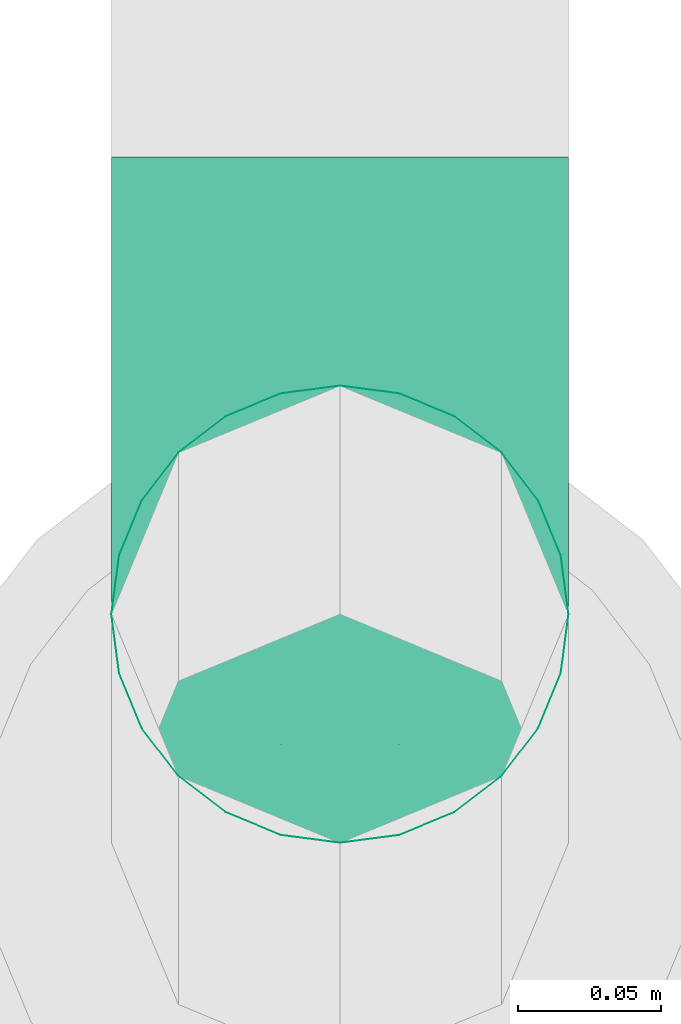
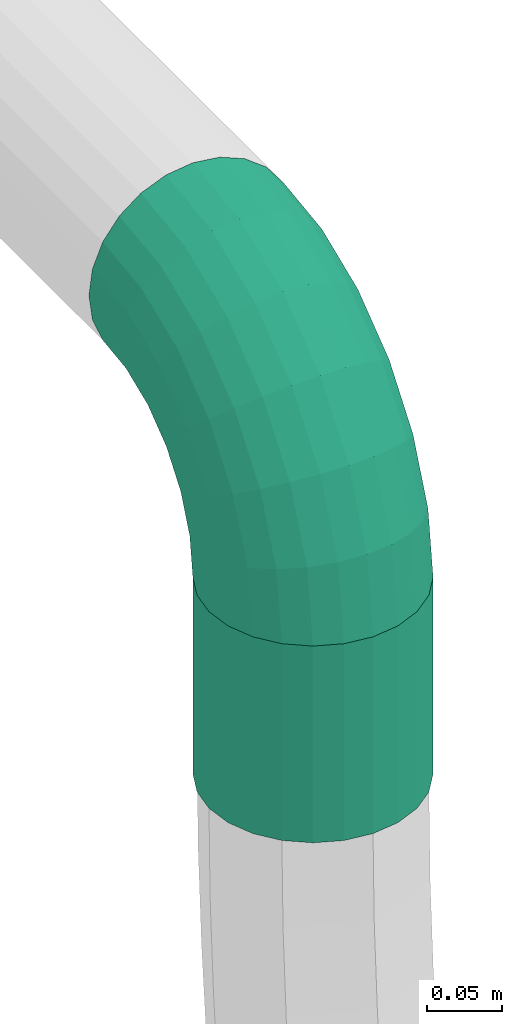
# One storey, part 65 of 374: 1 flow fitting, 1 flow segment.
"""IFC2X3 building model written with IfcOpenShell, lengths in metres."""

from ifc_helpers import new_model, si_unit, direction, origin, place, context, subcontext, project, spatial, open_shell, surface_model, source, transform, mapped, element, save


model = new_model("IFC2X3")

# Units and contexts
model_context = context("Model", 3, precision=1e-05, world=origin(), true_north=direction((-0.4480736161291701, 0.8939966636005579)))
body_context = subcontext(model_context, "Body", "Model", "MODEL_VIEW")
ifc_project = project(units=[si_unit("LENGTHUNIT", "METRE"), si_unit("AREAUNIT", "SQUARE_METRE"), si_unit("VOLUMEUNIT", "CUBIC_METRE"), si_unit("PLANEANGLEUNIT", "RADIAN"), si_unit("THERMODYNAMICTEMPERATUREUNIT", "KELVIN"), si_unit("MASSUNIT", "GRAM", prefix="KILO"), si_unit("TIMEUNIT", "SECOND")], contexts=[model_context])

# Site, building, storey
site_placement = place(None, origin())
site = spatial("IfcSite", under=ifc_project, at=site_placement, Name="Site 1", CompositionType="ELEMENT")
building_placement = place(site_placement, origin())
building = spatial("IfcBuilding", under=site, at=building_placement, Name="Undefined", CompositionType="ELEMENT")
storey_placement = place(building_placement, origin())
storey = spatial("IfcBuildingStorey", under=building, at=storey_placement, Name="Rez de chauss\x8ee", CompositionType="ELEMENT", Elevation=0.0)

# Flow fitting
shared_shape_1 = source(origin(), body_context, "Body", "SurfaceModel", [
    surface_model("IfcFaceBasedSurfaceModel", [(0.06265257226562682, -8.8817842e-16, 0.0), (0.062296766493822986, 0.02088115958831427, -7.105427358e-15), (0.0003558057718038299, 0.020881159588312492, 7.105427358e-15), (0.0, 0.0, 0.0), (-0.059474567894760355, 0.022956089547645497, -0.015896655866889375), (-0.06051773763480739, 0.002098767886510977, -0.01607928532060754), (-0.11311701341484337, 0.02696454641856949, -0.04660663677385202), (-0.11477645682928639, 0.006153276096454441, -0.04714207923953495), (-0.15691588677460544, 0.0326333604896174, -0.09003710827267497), (-0.15907851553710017, 0.01188721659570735, -0.09107150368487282), (-0.18788636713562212, 0.03957621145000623, -0.14322835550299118), (-0.1904048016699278, 0.01890983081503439, -0.14487384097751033), (-0.2039178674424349, 0.04731995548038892, -0.20255548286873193), (-0.20662048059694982, 0.026742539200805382, -0.20488255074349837), (0.061253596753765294, 0.04103889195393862, -0.0053597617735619), (0.0013989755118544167, 0.04103889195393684, -0.005359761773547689), (-0.05641614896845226, 0.04304393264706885, -0.02072097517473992), (-0.10825177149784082, 0.04691737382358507, -0.050396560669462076), (-0.15057538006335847, 0.05239524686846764, -0.09236417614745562), (-0.18050269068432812, 0.05910424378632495, -0.14376379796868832), (-0.19599420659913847, 0.06658715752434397, -0.20109262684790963), (0.05959415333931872, 0.05909948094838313, -0.01571402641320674), (0.003058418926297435, 0.05909948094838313, -0.01571402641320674), (-0.05155090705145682, 0.06099334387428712, -0.030223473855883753), (-0.10051228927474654, 0.06465200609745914, -0.058253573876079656), (-0.1404890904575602, 0.0698261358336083, -0.09789412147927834), (-0.16875695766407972, 0.0761631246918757, -0.14644367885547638), (-0.18338948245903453, 0.08323111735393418, -0.2005936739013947), (0.057431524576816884, 0.07383212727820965, -0.030357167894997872), (0.005221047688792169, 0.07383212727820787, -0.03035716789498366), (-0.0452104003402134, 0.07558110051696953, -0.04375657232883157), (-0.09042599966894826, 0.07895985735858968, -0.06964223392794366), (-0.12734438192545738, 0.08373814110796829, -0.10625008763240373), (-0.15344962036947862, 0.08959031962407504, -0.15108536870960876), (-0.16696268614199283, 0.0961175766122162, -0.20109262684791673), (0.054913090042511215, 0.0842328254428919, -0.048291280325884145), (0.007739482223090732, 0.08423282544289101, -0.04829128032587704), (-0.037826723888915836, 0.08581307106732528, -0.06039801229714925), (-0.07868026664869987, 0.08886587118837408, -0.08378642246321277), (-0.11203704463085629, 0.09318318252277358, -0.11686262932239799), (-0.13562384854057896, 0.09847078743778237, -0.1573725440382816), (-0.14783327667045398, 0.10436834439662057, -0.20255548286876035), (0.05221047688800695, 0.0895927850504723, -0.06829418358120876), (0.010442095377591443, 0.08959278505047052, -0.06829418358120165), (-0.029903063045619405, 0.09099196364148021, -0.07901370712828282), (-0.06607554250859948, 0.09369496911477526, -0.0997222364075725), (-0.0956102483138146, 0.0975175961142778, -0.12900851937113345), (-0.11649443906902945, 0.10219933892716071, -0.16487674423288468), (-0.12730489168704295, 0.1074211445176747, -0.2048825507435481), (0.04950786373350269, 0.08954673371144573, -0.08900271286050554), (0.013144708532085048, 0.08954673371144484, -0.08900271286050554), (-0.02197940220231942, 0.09076484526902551, -0.09833502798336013), (-0.05347081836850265, 0.09311805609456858, -0.11636367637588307), (-0.0791834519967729, 0.09644599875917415, -0.14186003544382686), (-0.09736502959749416, 0.10052187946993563, -0.17308657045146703), (-0.10677650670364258, 0.1050679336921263, -0.20791524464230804), (0.04698942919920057, 0.08409780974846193, -0.10900561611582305), (0.015663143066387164, 0.08409780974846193, -0.10900561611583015), (-0.014595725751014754, 0.08514719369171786, -0.11704525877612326), (-0.0417250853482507, 0.0871744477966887, -0.13257665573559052), (-0.06387611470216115, 0.09004141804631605, -0.15454136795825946), (-0.07953925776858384, 0.09355272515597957, -0.1814425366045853), (-0.08764709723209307, 0.09746907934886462, -0.21144689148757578), (0.04482680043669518, 0.0736173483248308, -0.12693972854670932), (0.017825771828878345, 0.0736173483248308, -0.12693972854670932), (-0.008255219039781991, 0.07452184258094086, -0.13386932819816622), (-0.03163879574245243, 0.0762691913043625, -0.14725628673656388), (-0.050731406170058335, 0.07874031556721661, -0.1661883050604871), (-0.06423192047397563, 0.08176681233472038, -0.18937519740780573), (-0.07122030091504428, 0.08514243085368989, -0.21523681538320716), (0.04316735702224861, 0.058819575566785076, -0.14158287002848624), (0.019485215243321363, 0.058819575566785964, -0.14158287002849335), (-0.0033899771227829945, 0.05961289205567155, -0.14766070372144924), (-0.02389931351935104, 0.06114546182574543, -0.15940217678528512), (-0.04064511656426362, 0.06331284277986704, -0.17600712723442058), (-0.052486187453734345, 0.06596733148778, -0.19634395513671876), (-0.05861557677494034, 0.06892802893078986, -0.2190267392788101), (0.04212418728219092, 0.040712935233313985, -0.15193713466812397), (0.020528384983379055, 0.040712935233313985, -0.15193713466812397), (-0.0003315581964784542, 0.041436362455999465, -0.15747952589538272), (-0.019034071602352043, 0.04283391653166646, -0.16818660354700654), (-0.03430460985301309, 0.04481035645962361, -0.1833286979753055), (-0.04510251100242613, 0.047230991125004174, -0.20187390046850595), (-0.05069191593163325, 0.04993085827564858, -0.22255838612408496), (0.04176838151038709, 0.02053136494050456, -0.15729689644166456), (0.020884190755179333, 0.02053136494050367, -0.15729689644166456), (0.0007116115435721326, 0.021230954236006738, -0.16265665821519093), (-0.017374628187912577, 0.022582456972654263, -0.17301092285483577), (-0.03214198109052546, 0.024493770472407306, -0.1876540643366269), (-0.042584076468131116, 0.026834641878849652, -0.20558817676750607), (-0.04798930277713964, 0.02944554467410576, -0.22559108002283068), (0.04212418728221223, -0.000349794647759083, -0.15729689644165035), (0.020528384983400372, -0.000349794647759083, -0.15729689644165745), (-0.0003315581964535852, 0.00037363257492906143, -0.1628392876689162), (-0.019034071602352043, 0.0017711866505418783, -0.17354636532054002), (-0.03430460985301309, 0.0037476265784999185, -0.18868845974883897), (-0.04510251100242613, 0.00616826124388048, -0.20723366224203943), (-0.05069191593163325, 0.008868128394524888, -0.22791814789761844), (0.04316735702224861, -0.020507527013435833, -0.15193713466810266), (0.019485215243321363, -0.020507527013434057, -0.15193713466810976), (-0.0033899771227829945, -0.019714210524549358, -0.15801496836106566), (-0.02389931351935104, -0.01818164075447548, -0.16975644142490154), (-0.04064511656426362, -0.01601425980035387, -0.186361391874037), (-0.052486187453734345, -0.013359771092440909, -0.20669821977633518), (-0.05861557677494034, -0.010399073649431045, -0.22938100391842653), (0.04482680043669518, -0.03856811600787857, -0.1415828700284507), (0.017825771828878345, -0.03856811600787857, -0.1415828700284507), (-0.008255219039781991, -0.03766362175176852, -0.1485124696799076), (-0.03163879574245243, -0.03591627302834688, -0.16189942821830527), (-0.050731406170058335, -0.03344514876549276, -0.1808314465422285), (-0.06423192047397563, -0.030418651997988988, -0.20401833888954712), (-0.07122030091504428, -0.027043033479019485, -0.22987995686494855), (0.04698942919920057, -0.05330076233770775, -0.12693972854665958), (0.015663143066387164, -0.05330076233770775, -0.12693972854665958), (-0.014595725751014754, -0.05225137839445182, -0.1349793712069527), (-0.0417250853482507, -0.05022412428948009, -0.15051076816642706), (-0.06387611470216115, -0.047357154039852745, -0.172475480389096), (-0.07953925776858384, -0.043845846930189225, -0.19937664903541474), (-0.08764709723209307, -0.03992949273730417, -0.2293810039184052), (0.04950786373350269, -0.06370146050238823, -0.10900561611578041), (0.013144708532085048, -0.06370146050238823, -0.10900561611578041), (-0.02197940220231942, -0.06248334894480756, -0.11833793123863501), (-0.05347081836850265, -0.06013013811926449, -0.13636657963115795), (-0.0791834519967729, -0.05680219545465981, -0.16186293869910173), (-0.09736502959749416, -0.05272631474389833, -0.1930894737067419), (-0.10677650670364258, -0.04818026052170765, -0.2279181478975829), (0.05221047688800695, -0.06906142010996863, -0.08900271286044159), (0.010442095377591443, -0.06906142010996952, -0.08900271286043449), (-0.029903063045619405, -0.06766224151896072, -0.09972223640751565), (-0.06607554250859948, -0.06495923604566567, -0.12043076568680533), (-0.0956102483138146, -0.06113660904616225, -0.14971704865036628), (-0.11649443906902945, -0.05645486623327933, -0.1855852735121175), (-0.12730489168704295, -0.05123306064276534, -0.22559108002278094), (0.054913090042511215, -0.06901536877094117, -0.06829418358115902), (0.007739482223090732, -0.06901536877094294, -0.06829418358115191), (-0.037826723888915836, -0.06743512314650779, -0.08040091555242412), (-0.07868026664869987, -0.06438232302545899, -0.10378932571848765), (-0.11203704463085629, -0.06006501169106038, -0.13686553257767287), (-0.13562384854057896, -0.0547774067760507, -0.17737544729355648), (-0.14783327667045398, -0.04887984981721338, -0.22255838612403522), (0.057431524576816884, -0.06356644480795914, -0.0482912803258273), (0.005221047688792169, -0.06356644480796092, -0.04829128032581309), (-0.0452104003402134, -0.061817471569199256, -0.0616906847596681), (-0.09042599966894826, -0.05843871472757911, -0.0875763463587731), (-0.12734438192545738, -0.05366043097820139, -0.12418420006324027), (-0.15344962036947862, -0.04780825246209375, -0.1690194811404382), (-0.16696268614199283, -0.041280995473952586, -0.21902673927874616), (0.05959415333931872, -0.05308598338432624, -0.030357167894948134), (0.003058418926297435, -0.05308598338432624, -0.030357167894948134), (-0.05155090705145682, -0.05119212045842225, -0.04486661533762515), (-0.10051228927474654, -0.04753345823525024, -0.07289671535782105), (-0.1404890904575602, -0.04235932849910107, -0.11253726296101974), (-0.16875695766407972, -0.03602233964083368, -0.16108682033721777), (-0.18338948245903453, -0.02895434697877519, -0.2152368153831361), (0.061253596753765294, -0.03828821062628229, -0.015714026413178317), (0.0013989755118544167, -0.03828821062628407, -0.015714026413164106), (-0.05641614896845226, -0.03628316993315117, -0.031075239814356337), (-0.10825177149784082, -0.03240972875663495, -0.06075082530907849), (-0.15057538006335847, -0.026931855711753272, -0.10271844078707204), (-0.18050269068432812, -0.02022285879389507, -0.15411806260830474), (-0.19599420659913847, -0.012739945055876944, -0.21144689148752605), (0.062296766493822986, -0.020181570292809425, -0.005359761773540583), (0.0003558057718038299, -0.020181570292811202, -0.0053597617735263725), (-0.059474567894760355, -0.018106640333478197, -0.021256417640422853), (-0.11311701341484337, -0.014098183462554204, -0.051966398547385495), (-0.15691588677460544, -0.00842936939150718, -0.09539687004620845), (-0.18788636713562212, -0.0014865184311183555, -0.14858811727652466), (-0.2039178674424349, 0.006257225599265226, -0.2079152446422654)], [open_shell([[[0, 1, 2, 3]], [[3, 2, 4, 5]], [[5, 4, 6, 7]], [[7, 6, 8, 9]], [[9, 8, 10, 11]], [[11, 10, 12, 13]], [[1, 14, 15, 2]], [[2, 15, 16, 4]], [[4, 16, 17, 6]], [[6, 17, 18, 8]], [[8, 18, 19, 10]], [[10, 19, 20, 12]], [[14, 21, 22, 15]], [[15, 22, 23, 16]], [[16, 23, 24, 17]], [[17, 24, 25, 18]], [[18, 25, 26, 19]], [[19, 26, 27, 20]], [[21, 28, 29, 22]], [[22, 29, 30, 23]], [[23, 30, 31, 24]], [[24, 31, 32, 25]], [[25, 32, 33, 26]], [[26, 33, 34, 27]], [[28, 35, 36, 29]], [[29, 36, 37, 30]], [[30, 37, 38, 31]], [[31, 38, 39, 32]], [[32, 39, 40, 33]], [[33, 40, 41, 34]], [[35, 42, 43, 36]], [[36, 43, 44, 37]], [[37, 44, 45, 38]], [[38, 45, 46, 39]], [[39, 46, 47, 40]], [[40, 47, 48, 41]], [[42, 49, 50, 43]], [[43, 50, 51, 44]], [[44, 51, 52, 45]], [[45, 52, 53, 46]], [[46, 53, 54, 47]], [[47, 54, 55, 48]], [[49, 56, 57, 50]], [[50, 57, 58, 51]], [[51, 58, 59, 52]], [[52, 59, 60, 53]], [[53, 60, 61, 54]], [[54, 61, 62, 55]], [[56, 63, 64, 57]], [[57, 64, 65, 58]], [[58, 65, 66, 59]], [[59, 66, 67, 60]], [[60, 67, 68, 61]], [[61, 68, 69, 62]], [[63, 70, 71, 64]], [[64, 71, 72, 65]], [[65, 72, 73, 66]], [[66, 73, 74, 67]], [[67, 74, 75, 68]], [[68, 75, 76, 69]], [[70, 77, 78, 71]], [[71, 78, 79, 72]], [[72, 79, 80, 73]], [[73, 80, 81, 74]], [[74, 81, 82, 75]], [[75, 82, 83, 76]], [[77, 84, 85, 78]], [[78, 85, 86, 79]], [[79, 86, 87, 80]], [[80, 87, 88, 81]], [[81, 88, 89, 82]], [[82, 89, 90, 83]], [[84, 91, 92, 85]], [[85, 92, 93, 86]], [[86, 93, 94, 87]], [[87, 94, 95, 88]], [[88, 95, 96, 89]], [[89, 96, 97, 90]], [[91, 98, 99, 92]], [[92, 99, 100, 93]], [[93, 100, 101, 94]], [[94, 101, 102, 95]], [[95, 102, 103, 96]], [[96, 103, 104, 97]], [[98, 105, 106, 99]], [[99, 106, 107, 100]], [[100, 107, 108, 101]], [[101, 108, 109, 102]], [[102, 109, 110, 103]], [[103, 110, 111, 104]], [[105, 112, 113, 106]], [[106, 113, 114, 107]], [[107, 114, 115, 108]], [[108, 115, 116, 109]], [[109, 116, 117, 110]], [[110, 117, 118, 111]], [[112, 119, 120, 113]], [[113, 120, 121, 114]], [[114, 121, 122, 115]], [[115, 122, 123, 116]], [[116, 123, 124, 117]], [[117, 124, 125, 118]], [[119, 126, 127, 120]], [[120, 127, 128, 121]], [[121, 128, 129, 122]], [[122, 129, 130, 123]], [[123, 130, 131, 124]], [[124, 131, 132, 125]], [[126, 133, 134, 127]], [[127, 134, 135, 128]], [[128, 135, 136, 129]], [[129, 136, 137, 130]], [[130, 137, 138, 131]], [[131, 138, 139, 132]], [[133, 140, 141, 134]], [[134, 141, 142, 135]], [[135, 142, 143, 136]], [[136, 143, 144, 137]], [[137, 144, 145, 138]], [[138, 145, 146, 139]], [[140, 147, 148, 141]], [[141, 148, 149, 142]], [[142, 149, 150, 143]], [[143, 150, 151, 144]], [[144, 151, 152, 145]], [[145, 152, 153, 146]], [[147, 154, 155, 148]], [[148, 155, 156, 149]], [[149, 156, 157, 150]], [[150, 157, 158, 151]], [[151, 158, 159, 152]], [[152, 159, 160, 153]], [[154, 161, 162, 155]], [[155, 162, 163, 156]], [[156, 163, 164, 157]], [[157, 164, 165, 158]], [[158, 165, 166, 159]], [[159, 166, 167, 160]], [[161, 0, 3, 162]], [[162, 3, 5, 163]], [[163, 5, 7, 164]], [[164, 7, 9, 165]], [[165, 9, 11, 166]], [[166, 11, 13, 167]]])]),
])
flow_fitting_placement = place(storey_placement, origin())
element("IfcFlowFitting", 1, at=flow_fitting_placement, inside=storey, Name="Coude", ObjectType="Coude", context=body_context, shape_type="MappedRepresentation", body=[
    mapped(shared_shape_1, transform((46.290001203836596, 1.8881775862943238, 3.702116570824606), x_axis=(9.56658874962e-13, -0.13052619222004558, -0.9914448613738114), y_axis=(0.9915887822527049, 0.12832103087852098, -0.01689378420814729), z_axis=(0.12942830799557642, -0.983105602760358, 0.1294283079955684))),
])

# Flow segment
shared_shape_2 = source(origin(), body_context, "Body", "SurfaceModel", [
    surface_model("IfcFaceBasedSurfaceModel", [(0.0, 0.020884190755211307, 0.0), (0.0, 0.0, 0.0), (0.16000000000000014, 0.0, -4.4408921e-16), (0.16000000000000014, 0.0208841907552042, -4.4408921e-16), (0.0, -0.020172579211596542, -0.005405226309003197), (0.16000000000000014, -0.020172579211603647, -0.005405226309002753), (0.0, -0.03825881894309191, -0.015847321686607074), (0.16000000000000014, -0.03825881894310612, -0.015847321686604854), (0.0, -0.05302617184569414, -0.0306146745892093), (0.16000000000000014, -0.05302617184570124, -0.03061467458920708), (0.0, -0.06346826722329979, -0.04870091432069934), (0.16000000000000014, -0.0634682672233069, -0.04870091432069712), (0.0, -0.06887349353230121, -0.06887349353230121), (0.16000000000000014, -0.06887349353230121, -0.06887349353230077), (0.0, -0.06887349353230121, -0.08975768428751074), (0.16000000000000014, -0.06887349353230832, -0.08975768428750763), (0.0, -0.06346826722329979, -0.10993026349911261), (0.16000000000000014, -0.0634682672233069, -0.10993026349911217), (0.0, -0.05302617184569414, -0.12801650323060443), (0.16000000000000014, -0.05302617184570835, -0.1280165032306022), (0.0, -0.038258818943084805, -0.14278385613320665), (0.16000000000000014, -0.03825881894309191, -0.14278385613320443), (0.0, -0.020172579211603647, -0.15322595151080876), (0.16000000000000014, -0.020172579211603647, -0.1532259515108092), (0.0, 7.105427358e-15, -0.15863117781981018), (0.16000000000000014, -7.105427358e-15, -0.15863117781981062), (0.0, 0.020884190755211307, -0.15863117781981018), (0.16000000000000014, 0.0208841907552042, -0.15863117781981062), (0.0, 0.04105676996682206, -0.15322595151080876), (0.16000000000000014, 0.04105676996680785, -0.1532259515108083), (0.0, 0.05914300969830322, -0.1427838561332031), (0.16000000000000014, 0.05914300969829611, -0.14278385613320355), (0.0, 0.07391036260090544, -0.12801650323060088), (0.16000000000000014, 0.07391036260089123, -0.1280165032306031), (0.0, 0.0843524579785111, -0.10993026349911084), (0.16000000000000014, 0.08435245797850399, -0.10993026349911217), (0.0, 0.08975768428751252, -0.08975768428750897), (0.16000000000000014, 0.08975768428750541, -0.08975768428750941), (0.0, 0.08975768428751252, -0.06887349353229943), (0.16000000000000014, 0.08975768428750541, -0.06887349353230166), (0.0, 0.0843524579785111, -0.048700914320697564), (0.16000000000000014, 0.08435245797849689, -0.04870091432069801), (0.0, 0.07391036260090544, -0.030614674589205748), (0.16000000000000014, 0.07391036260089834, -0.03061467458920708), (0.0, 0.05914300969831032, -0.015847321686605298), (0.16000000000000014, 0.05914300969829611, -0.01584732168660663), (0.0, 0.04105676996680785, -0.005405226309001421), (0.16000000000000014, 0.04105676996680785, -0.005405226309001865)], [open_shell([[[0, 1, 2, 3]], [[1, 4, 5, 2]], [[4, 6, 7, 5]], [[6, 8, 9, 7]], [[8, 10, 11, 9]], [[10, 12, 13, 11]], [[12, 14, 15, 13]], [[14, 16, 17, 15]], [[16, 18, 19, 17]], [[18, 20, 21, 19]], [[20, 22, 23, 21]], [[22, 24, 25, 23]], [[24, 26, 27, 25]], [[26, 28, 29, 27]], [[28, 30, 31, 29]], [[30, 32, 33, 31]], [[32, 34, 35, 33]], [[34, 36, 37, 35]], [[36, 38, 39, 37]], [[38, 40, 41, 39]], [[40, 42, 43, 41]], [[42, 44, 45, 43]], [[44, 46, 47, 45]], [[46, 0, 3, 47]]])]),
])
flow_segment_placement = place(storey_placement, origin())
element("IfcFlowSegment", 2, at=flow_segment_placement, inside=storey, Name="Tube", ObjectType="Tube", context=body_context, shape_type="MappedRepresentation", body=[
    mapped(shared_shape_2, transform((46.269295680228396, 2.0372738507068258, 3.4800000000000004), x_axis=(0.0, 0.0, 1.0), y_axis=(0.9914448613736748, 0.13052619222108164, 0.0), z_axis=(-0.13052619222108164, 0.9914448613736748, 0.0))),
])

save(model, "model.ifc")
